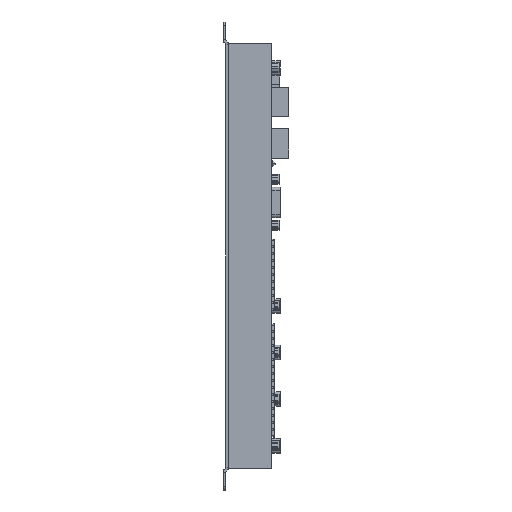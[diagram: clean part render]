
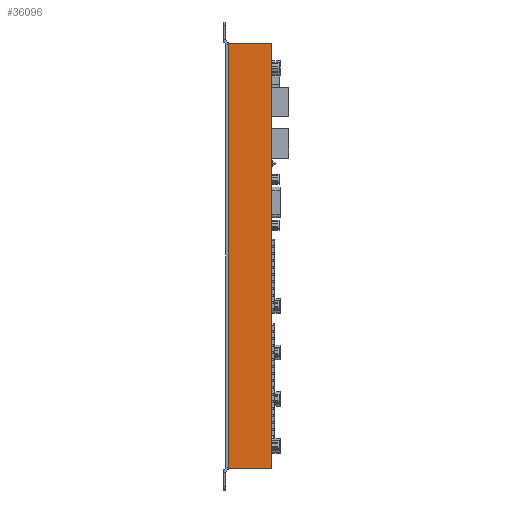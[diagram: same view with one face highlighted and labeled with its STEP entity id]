
A CAD part, left-side view. The second image highlights one B-rep face of the part: STEP entity #36096.
In plain terms, the highlighted planar face has unit normal (-1, 0, 0) as drawn and (0, 1, 0) by its records, which use the part's own axes.
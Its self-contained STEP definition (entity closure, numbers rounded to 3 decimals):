
#7297 = ORIENTED_EDGE ( 'NONE', *, *, #50177, .F. ) ;
#7630 = VECTOR ( 'NONE', #9951, 1000. ) ;
#9154 = LINE ( 'NONE', #9465, #29519 ) ;
#9465 = CARTESIAN_POINT ( 'NONE',  ( 116., 70., 23.5 ) ) ;
#9802 = CARTESIAN_POINT ( 'NONE',  ( -116., 70., 23.5 ) ) ;
#9951 = DIRECTION ( 'NONE',  ( 0., 0., -1. ) ) ;
#10125 = LINE ( 'NONE', #29201, #34502 ) ;
#11131 = FACE_OUTER_BOUND ( 'NONE', #45780, .T. ) ;
#13578 = DIRECTION ( 'NONE',  ( 0., 0., -1. ) ) ;
#13590 = DIRECTION ( 'NONE',  ( -1., 0., 0. ) ) ;
#15202 = CARTESIAN_POINT ( 'NONE',  ( 116., 70., 23.5 ) ) ;
#20686 = EDGE_CURVE ( 'NONE', #56461, #23254, #9154, .T. ) ;
#21637 = EDGE_CURVE ( 'NONE', #56461, #45125, #53395, .T. ) ;
#21805 = AXIS2_PLACEMENT_3D ( 'NONE', #15202, #33955, #34253 ) ;
#22397 = ORIENTED_EDGE ( 'NONE', *, *, #20686, .F. ) ;
#23254 = VERTEX_POINT ( 'NONE', #29896 ) ;
#25495 = ORIENTED_EDGE ( 'NONE', *, *, #26146, .T. ) ;
#26146 = EDGE_CURVE ( 'NONE', #45125, #49426, #10125, .T. ) ;
#28549 = DIRECTION ( 'NONE',  ( -1., 0., 0. ) ) ;
#29168 = CARTESIAN_POINT ( 'NONE',  ( 116., 70., 23.5 ) ) ;
#29201 = CARTESIAN_POINT ( 'NONE',  ( 116., 70., 0. ) ) ;
#29519 = VECTOR ( 'NONE', #28549, 1000. ) ;
#29896 = CARTESIAN_POINT ( 'NONE',  ( -116., 70., 23.5 ) ) ;
#33955 = DIRECTION ( 'NONE',  ( 0., -1., 0. ) ) ;
#34253 = DIRECTION ( 'NONE',  ( 1., 0., 0. ) ) ;
#34502 = VECTOR ( 'NONE', #13590, 1000. ) ;
#34893 = PLANE ( 'NONE',  #21805 ) ;
#36096 = ADVANCED_FACE ( 'NONE', ( #11131 ), #34893, .F. ) ;
#45125 = VERTEX_POINT ( 'NONE', #45285 ) ;
#45285 = CARTESIAN_POINT ( 'NONE',  ( 116., 70., 0. ) ) ;
#45780 = EDGE_LOOP ( 'NONE', ( #25495, #7297, #22397, #58217 ) ) ;
#48155 = CARTESIAN_POINT ( 'NONE',  ( -116., 70., 0. ) ) ;
#49426 = VERTEX_POINT ( 'NONE', #48155 ) ;
#50177 = EDGE_CURVE ( 'NONE', #23254, #49426, #52630, .T. ) ;
#52630 = LINE ( 'NONE', #9802, #58237 ) ;
#53395 = LINE ( 'NONE', #58720, #7630 ) ;
#56461 = VERTEX_POINT ( 'NONE', #29168 ) ;
#58217 = ORIENTED_EDGE ( 'NONE', *, *, #21637, .T. ) ;
#58237 = VECTOR ( 'NONE', #13578, 1000. ) ;
#58720 = CARTESIAN_POINT ( 'NONE',  ( 116., 70., 23.5 ) ) ;
